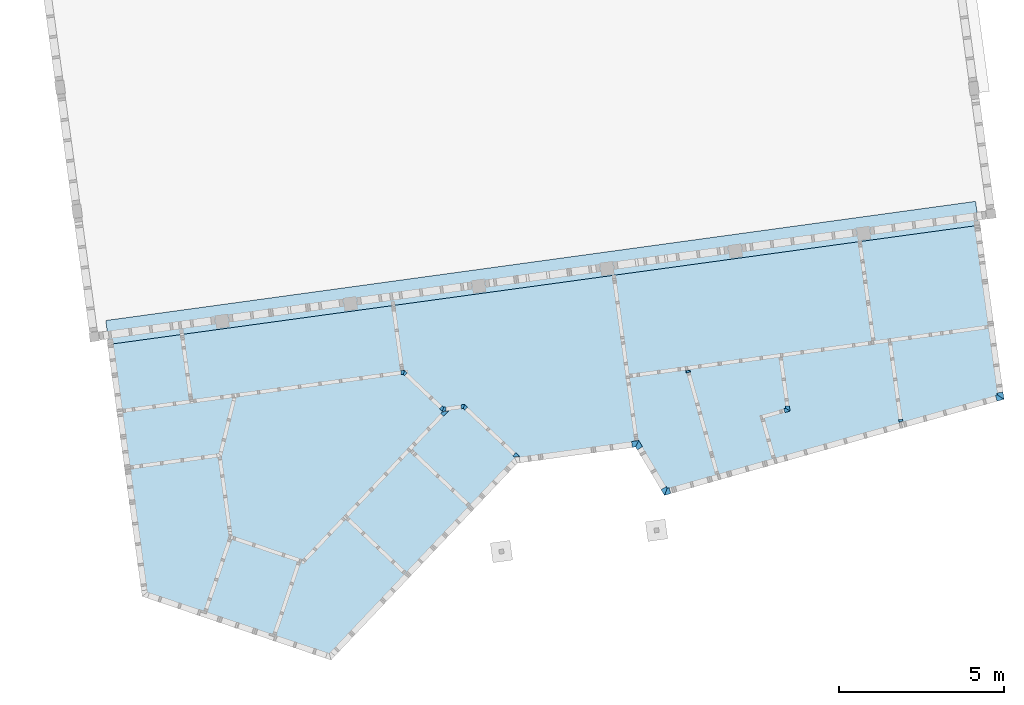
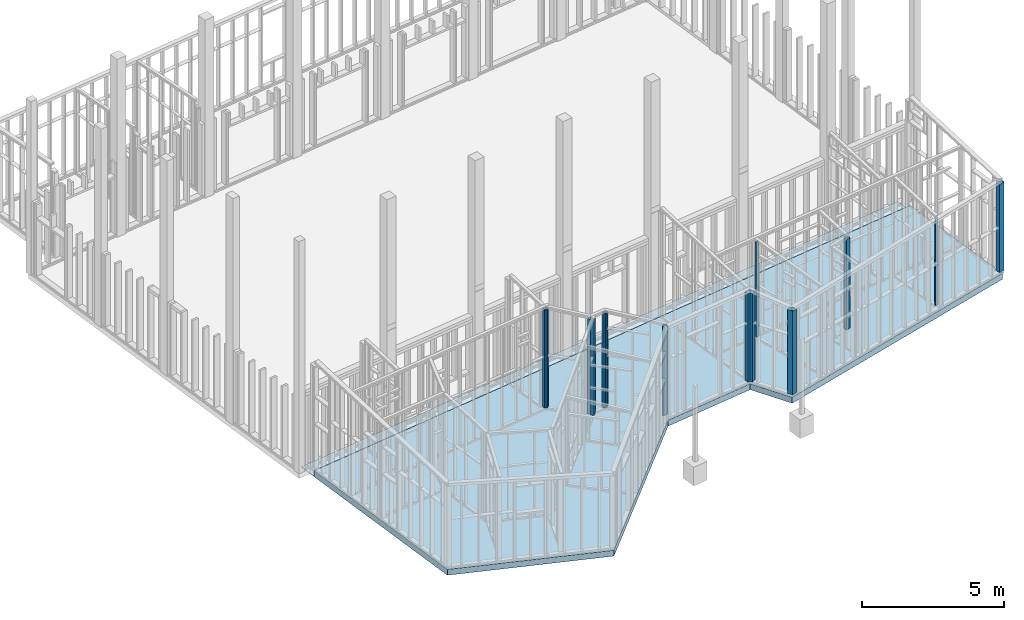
# One storey, part 23 of 24: 19 slabs.
"""IFC2X3 building model written with IfcOpenShell, lengths in metres."""

from ifc_helpers import new_model, entity, si_unit, converted_unit, derived_unit, money_unit, direction, frame, origin_with_axes, place, context, subcontext, project, spatial, polyline, outline, extrude, boolean, faceted_brep, material, layer, layer_set, layer_usage, type_object, element, save


model = new_model("IFC2X3")

# Units and contexts
model_context = context("Model", 3, precision=1e-05, world=origin_with_axes(), true_north=direction((0.0, 1.0)))
body_context = subcontext(model_context, "Body", "Model", "MODEL_VIEW")
ifc_project = project(units=[si_unit("LENGTHUNIT", "METRE"), si_unit("AREAUNIT", "SQUARE_METRE"), si_unit("VOLUMEUNIT", "CUBIC_METRE"), converted_unit("PLANEANGLEUNIT", "DEGREE", entity("IfcPlaneAngleMeasure", 0.0174532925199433), si_unit("PLANEANGLEUNIT", "RADIAN"), dimensions=[0, 0, 0, 0, 0, 0, 0]), money_unit("EUR"), converted_unit("TIMEUNIT", "Year", entity("IfcTimeMeasure", 31557600.0), si_unit("TIMEUNIT", "SECOND"), dimensions=[0, 0, 1, 0, 0, 0, 0]), si_unit("MASSUNIT", "GRAM", prefix="KILO"), si_unit("THERMODYNAMICTEMPERATUREUNIT", "DEGREE_CELSIUS"), si_unit("LUMINOUSINTENSITYUNIT", "LUMEN"), si_unit("ENERGYUNIT", "JOULE", prefix="MEGA"), derived_unit("THERMALCONDUCTANCEUNIT", [(si_unit("POWERUNIT", "WATT"), 1), (si_unit("LENGTHUNIT", "METRE"), -1), (si_unit("THERMODYNAMICTEMPERATUREUNIT", "KELVIN"), -1)]), derived_unit("SPECIFICHEATCAPACITYUNIT", [(si_unit("ENERGYUNIT", "JOULE"), 1), (si_unit("MASSUNIT", "GRAM", prefix="KILO"), -1), (si_unit("THERMODYNAMICTEMPERATUREUNIT", "KELVIN"), -1)]), derived_unit("MASSDENSITYUNIT", [(si_unit("MASSUNIT", "GRAM", prefix="KILO"), 1), (si_unit("VOLUMEUNIT", "CUBIC_METRE"), -1)])], contexts=[model_context])

# Site, building, storey
site_placement = place(None, origin_with_axes())
site = spatial("IfcSite", under=ifc_project, at=site_placement, Name="Gelände", CompositionType="ELEMENT")
building_placement = place(site_placement, origin_with_axes())
building = spatial("IfcBuilding", under=site, at=building_placement, Name="Gebäude", CompositionType="ELEMENT")
storey_placement = place(building_placement, origin_with_axes())
storey = spatial("IfcBuildingStorey", under=building, at=storey_placement, Name="EG", CompositionType="ELEMENT", Elevation=0.0)

# Slabs
ifc_material_1 = material(Name="Beton, Stahlbeton 25")
ifc_layer = layer(ifc_material_1, 0.25, ventilated="UNKNOWN")
ifc_layer_set = layer_set([ifc_layer], Name="Beton, Stahlbeton 25 0.25")
ifc_layer_usage = layer_usage(ifc_layer_set, "AXIS3", "NEGATIVE", 0.2500000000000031)
slab_type_1 = type_object("IfcSlabType", Name="Beton, Stahlbeton 25 250", PredefinedType="FLOOR")
slab_1_placement = place(storey_placement, frame((86.94210031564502, -150.5229918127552, -0.183000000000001), z_axis=(0.0, 0.0, 1.0), x_axis=(1.0, 0.0, 0.0)))
element("IfcSlab", 1, at=slab_1_placement, inside=storey, type_object=slab_type_1, material=ifc_layer_usage, Name="Decke-005", PredefinedType="FLOOR", context=body_context, shape_type="CSG", body=[
    boolean("DIFFERENCE", extrude(outline(polyline([(0.0, 0.0), (1.138037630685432, -8.308150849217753), (6.795379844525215, -10.21762928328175), (12.420906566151, -4.274484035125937), (16.03651223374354, -3.779223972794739), (16.90508876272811, -5.237460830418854), (27.10474242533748, -2.35044120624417), (26.2895100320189, 3.601096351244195), (0.0, 0.0)])), frame((0.0, 0.0, -0.2500000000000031), z_axis=(0.0, 0.0, 1.0), x_axis=(1.0, 0.0, 0.0)), (0.0, 0.0, 1.0), 0.2500000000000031), faceted_brep([(0.09907080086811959, -0.7232585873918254, 0.0), (26.38858085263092, 2.877837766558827, 0.0), (26.2895100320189, 3.601096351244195, 0.0), (0.0, 0.0, 0.0), (26.38858085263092, 2.877837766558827, -0.2350000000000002), (0.09907080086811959, -0.7232585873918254, -0.2350000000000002), (26.2895100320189, 3.601096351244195, -0.2350000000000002), (0.0, 0.0, -0.2350000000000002)], [[[0, 1, 2, 3]], [[4, 1, 0, 5]], [[4, 6, 2, 1]], [[6, 7, 3, 2]], [[5, 0, 3, 7]], [[6, 4, 5, 7]]])),
])
ifc_material_2 = material(Name="Holz, Bauholz")
slab_type_2 = type_object("IfcSlabType", Name="Holz, Bauholz", PredefinedType="FLOOR")
slab_2_placement = place(storey_placement, frame((-0.0160139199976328, 0.1169083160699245, 0.0), z_axis=(0.0, 0.0, 1.0), x_axis=(1.0, 0.0, 0.0)))
element("IfcSlab", 2, at=slab_2_placement, inside=storey, type_object=slab_type_2, material=ifc_material_2, Name="Decke-041", PredefinedType="FLOOR", context=body_context, shape_type="Brep", body=[
    faceted_brep([(110.9329398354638, -153.7151770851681, -0.04299999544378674), (110.9329398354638, -153.7151770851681, 3.706368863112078), (110.9225071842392, -153.6390138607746, 3.706368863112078), (110.9225071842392, -153.6390138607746, -0.04299999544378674), (111.0495396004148, -153.6821734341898, -0.04300000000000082), (111.0495396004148, -153.6821734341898, 3.706368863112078), (111.0413969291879, -153.6227285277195, 3.706368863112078), (111.0413969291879, -153.6227285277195, -0.04300000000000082)], [[[0, 1, 2, 3]], [[1, 0, 4, 5]], [[2, 1, 5, 6]], [[3, 2, 6, 7]], [[0, 3, 7, 4]], [[7, 6, 5, 4]]]),
])
slab_3_placement = place(storey_placement, frame((-0.01601392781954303, 0.1169083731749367, 0.0), z_axis=(0.0, 0.0, 1.0), x_axis=(1.0, 0.0, 0.0)))
element("IfcSlab", 3, at=slab_3_placement, inside=storey, type_object=slab_type_2, material=ifc_material_2, Name="Decke-043", PredefinedType="FLOOR", context=body_context, shape_type="Brep", body=[
    faceted_brep([(113.8994944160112, -152.8293312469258, -0.04299999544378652), (113.9076370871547, -152.8887761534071, -0.04299999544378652), (113.9076370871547, -152.8887761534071, 3.762329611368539), (113.8994944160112, -152.8293312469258, 3.762329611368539), (114.0778291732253, -152.8049032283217, -0.04299999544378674), (114.1072051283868, -153.0193599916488, -0.04299999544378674), (114.1072051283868, -153.0193599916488, 3.762329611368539), (114.0778291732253, -152.8049032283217, 3.762329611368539)], [[[0, 1, 2, 3]], [[1, 0, 4, 5]], [[1, 5, 6, 2]], [[3, 2, 6, 7]], [[0, 3, 7, 4]], [[4, 7, 6, 5]]]),
])
slab_4_placement = place(storey_placement, frame((-0.01601392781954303, 0.1169083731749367, 0.0), z_axis=(0.0, 0.0, 1.0), x_axis=(1.0, 0.0, 0.0)))
element("IfcSlab", 4, at=slab_4_placement, inside=storey, type_object=slab_type_2, material=ifc_material_2, Name="Decke-042", PredefinedType="FLOOR", context=body_context, shape_type="Brep", body=[
    faceted_brep([(113.8499029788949, -152.9051178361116, -0.04300000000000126), (113.8989262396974, -153.0783138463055, -0.04300000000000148), (113.8989262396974, -153.0783138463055, 3.741354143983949), (113.8499029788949, -152.9051178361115, 3.741354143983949), (113.9076348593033, -152.8887767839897, -0.04300000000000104), (114.1072032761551, -153.0193608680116, -0.04300000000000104), (114.1072032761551, -153.0193608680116, 3.745590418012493), (113.9076348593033, -152.8887767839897, 3.742528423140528)], [[[0, 1, 2, 3]], [[1, 0, 4, 5]], [[2, 1, 5, 6]], [[3, 2, 7]], [[0, 3, 7, 4]], [[5, 4, 7, 6]], [[7, 2, 6]]]),
])
slab_5_placement = place(storey_placement, frame((-0.0160139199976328, 0.1169083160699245, 0.0), z_axis=(0.0, 0.0, 1.0), x_axis=(1.0, 0.0, 0.0)))
element("IfcSlab", 5, at=slab_5_placement, inside=storey, type_object=slab_type_2, material=ifc_material_2, Name="Decke-039", PredefinedType="FLOOR", context=body_context, shape_type="Brep", body=[
    faceted_brep([(107.4514058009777, -153.3084026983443, -0.04299999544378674), (107.4840878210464, -153.4238664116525, -0.04299999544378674), (107.4840878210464, -153.4238664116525, 3.818423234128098), (107.4514058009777, -153.3084026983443, 3.818423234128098), (107.5091376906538, -153.2920616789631, -0.04299999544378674), (107.6421829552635, -153.3791175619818, -0.04299999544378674), (107.6421829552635, -153.3791175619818, 3.818423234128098), (107.5091376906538, -153.2920616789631, 3.818423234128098)], [[[0, 1, 2, 3]], [[1, 0, 4]], [[2, 1, 5, 6]], [[3, 2, 6, 7]], [[0, 3, 7, 4]], [[5, 1, 4]], [[4, 7, 6, 5]]]),
])
slab_6_placement = place(storey_placement, frame((-0.0160139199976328, 0.1169083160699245, 0.0), z_axis=(0.0, 0.0, 1.0), x_axis=(1.0, 0.0, 0.0)))
element("IfcSlab", 6, at=slab_6_placement, inside=storey, type_object=slab_type_2, material=ifc_material_2, Name="Decke-040", PredefinedType="FLOOR", context=body_context, shape_type="Brep", body=[
    faceted_brep([(107.5009935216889, -153.2326169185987, -0.04299999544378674), (107.5091361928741, -153.292061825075, -0.04299999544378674), (107.5091361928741, -153.292061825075, 3.83200834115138), (107.5009935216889, -153.2326169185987, 3.83200834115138), (107.6198832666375, -153.2163315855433, -0.04299999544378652), (107.6421814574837, -153.3791177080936, -0.04299999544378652), (107.6421814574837, -153.3791177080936, 3.832008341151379), (107.6198832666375, -153.2163315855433, 3.832008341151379)], [[[0, 1, 2, 3]], [[1, 0, 4, 5]], [[1, 5, 6, 2]], [[3, 2, 6, 7]], [[0, 3, 7, 4]], [[6, 5, 4, 7]]]),
])
slab_7_placement = place(storey_placement, frame((-0.01601391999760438, 0.1169083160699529, 0.0), z_axis=(0.0, 0.0, 1.0), x_axis=(1.0, 0.0, 0.0)))
element("IfcSlab", 7, at=slab_7_placement, inside=storey, type_object=slab_type_2, material=ifc_material_2, Name="Decke-038", PredefinedType="FLOOR", context=body_context, shape_type="Brep", body=[
    faceted_brep([(104.492535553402, -152.1606298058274, -0.04299999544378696), (104.5134723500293, -152.234598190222, -0.04299999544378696), (104.5134723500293, -152.234598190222, 4.034904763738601), (104.492535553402, -152.1606298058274, 4.034904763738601), (104.6125950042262, -152.1441842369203, -0.04299999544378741), (104.6289360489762, -152.2019161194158, -0.04299999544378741), (104.6289360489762, -152.2019161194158, 4.034904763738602), (104.6125950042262, -152.1441842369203, 4.034904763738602)], [[[0, 1, 2, 3]], [[1, 0, 4, 5]], [[2, 1, 5, 6]], [[3, 2, 6, 7]], [[0, 3, 7, 4]], [[4, 7, 6, 5]]]),
])
slab_8_placement = place(storey_placement, frame((-0.01601335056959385, 0.1169074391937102, 0.0), z_axis=(0.0, 0.0, 1.0), x_axis=(1.0, 0.0, 0.0)))
element("IfcSlab", 8, at=slab_8_placement, inside=storey, type_object=slab_type_2, material=ifc_material_2, Name="Decke-034", PredefinedType="FLOOR", context=body_context, shape_type="Brep", body=[
    faceted_brep([(103.7431350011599, -155.7539463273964, -0.04300000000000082), (103.8445510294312, -155.9242117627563, -0.04300000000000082), (103.8445510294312, -155.9242117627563, 3.555), (103.7431350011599, -155.7539463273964, 3.555), (103.8977807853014, -155.6618339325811, -0.04300000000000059), (103.9284849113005, -155.7133825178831, -0.04300000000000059), (103.9284849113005, -155.7133825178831, 3.555), (103.8977807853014, -155.6618339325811, 3.555)], [[[0, 1, 2, 3]], [[1, 0, 4, 5]], [[1, 5, 6, 2]], [[3, 2, 6, 7]], [[0, 3, 7, 4]], [[4, 7, 6, 5]]]),
])
slab_9_placement = place(storey_placement, frame((-0.01601335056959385, 0.1169074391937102, 0.0), z_axis=(0.0, 0.0, 1.0), x_axis=(1.0, 0.0, 0.0)))
element("IfcSlab", 9, at=slab_9_placement, inside=storey, type_object=slab_type_2, material=ifc_material_2, Name="Decke-035", PredefinedType="FLOOR", context=body_context, shape_type="Brep", body=[
    faceted_brep([(103.9284826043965, -155.7133833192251, -0.04300000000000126), (103.8445491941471, -155.9242113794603, -0.04300000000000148), (103.8445491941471, -155.9242113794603, 3.535), (103.9284826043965, -155.7133833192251, 3.535), (103.9862144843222, -155.697042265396, -0.04300000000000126), (104.0352373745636, -155.8702369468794, -0.04300000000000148), (104.0352373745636, -155.8702369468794, 3.535), (103.9862144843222, -155.697042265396, 3.535)], [[[0, 1, 2, 3]], [[1, 0, 4, 5]], [[2, 1, 5, 6]], [[3, 2, 6, 7]], [[0, 3, 7, 4]], [[4, 7, 6, 5]]]),
])
slab_10_placement = place(storey_placement, frame((-0.01601405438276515, 0.1169082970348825, 0.0), z_axis=(0.0, 0.0, 1.0), x_axis=(1.0, 0.0, 0.0)))
element("IfcSlab", 10, at=slab_10_placement, inside=storey, type_object=slab_type_2, material=ifc_material_2, Name="Decke-037", PredefinedType="FLOOR", context=body_context, shape_type="Brep", body=[
    faceted_brep([(102.9738144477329, -154.4623484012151, -0.04300000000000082), (103.0248490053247, -154.5480293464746, -0.04300000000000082), (103.0248490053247, -154.5480293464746, 3.745), (102.9738144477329, -154.4623484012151, 3.745), (103.0674689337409, -154.267838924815, -0.04300000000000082), (103.1794947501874, -154.4559169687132, -0.04300000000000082), (103.1794947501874, -154.4559169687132, 3.745), (103.0674689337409, -154.267838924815, 3.745)], [[[0, 1, 2, 3]], [[1, 0, 4, 5]], [[1, 5, 6, 2]], [[3, 2, 6, 7]], [[0, 3, 7, 4]], [[4, 7, 6, 5]]]),
])
slab_11_placement = place(storey_placement, frame((-0.01601405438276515, 0.1169082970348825, 0.0), z_axis=(0.0, 0.0, 1.0), x_axis=(1.0, 0.0, 0.0)))
element("IfcSlab", 11, at=slab_11_placement, inside=storey, type_object=slab_type_2, material=ifc_material_2, Name="Decke-036", PredefinedType="FLOOR", context=body_context, shape_type="Brep", body=[
    faceted_brep([(102.8505805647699, -154.2975480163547, -0.04300000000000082), (102.8750085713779, -154.4758826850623, -0.04300000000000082), (102.8750085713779, -154.4758826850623, 3.757160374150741), (102.8505805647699, -154.2975480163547, 3.757160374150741), (102.9738143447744, -154.4623484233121, -0.04300000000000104), (102.9738143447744, -154.4623484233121, 3.757160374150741), (103.0674688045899, -154.2678390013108, 3.757160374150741), (103.0674688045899, -154.2678390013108, -0.04300000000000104)], [[[0, 1, 2, 3]], [[1, 0, 4]], [[2, 1, 4, 5]], [[3, 2, 5]], [[0, 3, 6, 7]], [[4, 0, 7]], [[5, 4, 7, 6]], [[3, 5, 6]]]),
])
slab_12_placement = place(storey_placement, frame((-0.01601391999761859, 0.1169083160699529, 0.0), z_axis=(0.0, 0.0, 1.0), x_axis=(1.0, 0.0, 0.0)))
element("IfcSlab", 12, at=slab_12_placement, inside=storey, type_object=slab_type_2, material=ifc_material_2, Name="Decke-031", PredefinedType="FLOOR", context=body_context, shape_type="Brep", body=[
    faceted_brep([(97.76488127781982, -153.3019072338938, 4.013874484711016), (97.76488127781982, -153.3019072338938, -0.04300000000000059), (97.80845608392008, -153.3431532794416, -0.04300000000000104), (97.80845608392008, -153.3431532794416, 4.013874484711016), (97.80559294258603, -153.1752100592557, 4.013874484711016), (97.80559294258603, -153.1752100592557, -0.04300000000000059), (97.89094812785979, -153.2560037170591, -0.04300000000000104), (97.89094812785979, -153.2560037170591, 4.013874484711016)], [[[0, 1, 2, 3]], [[1, 0, 4, 5]], [[2, 1, 6]], [[3, 2, 6, 7]], [[4, 0, 3, 7]], [[5, 4, 7, 6]], [[1, 5, 6]]]),
])
slab_13_placement = place(storey_placement, frame((-0.01601391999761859, 0.1169083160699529, 0.0), z_axis=(0.0, 0.0, 1.0), x_axis=(1.0, 0.0, 0.0)))
element("IfcSlab", 13, at=slab_13_placement, inside=storey, type_object=slab_type_2, material=ifc_material_2, Name="Decke-030", PredefinedType="FLOOR", context=body_context, shape_type="Brep", body=[
    faceted_brep([(97.68915099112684, -153.1911602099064, -0.04300000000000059), (97.7054363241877, -153.310049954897, -0.04300000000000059), (97.7054363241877, -153.310049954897, 4.013874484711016), (97.68915099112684, -153.1911602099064, 4.013874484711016), (97.764881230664, -153.3019072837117, -0.04300000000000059), (97.80559289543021, -153.1752101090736, -0.04300000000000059), (97.764881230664, -153.3019072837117, 4.013874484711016), (97.80559289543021, -153.1752101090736, 4.013874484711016)], [[[0, 1, 2, 3]], [[4, 1, 0, 5]], [[1, 4, 6, 2]], [[3, 2, 6, 7]], [[0, 3, 7, 5]], [[6, 4, 5, 7]]]),
])
slab_14_placement = place(storey_placement, frame((-0.01601391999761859, 0.1169083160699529, 0.0), z_axis=(0.0, 0.0, 1.0), x_axis=(1.0, 0.0, 0.0)))
element("IfcSlab", 14, at=slab_14_placement, inside=storey, type_object=slab_type_2, material=ifc_material_2, Name="Decke-029", PredefinedType="FLOOR", context=body_context, shape_type="Brep", body=[
    faceted_brep([(97.08434965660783, -153.447450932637, 4.009085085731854), (97.08434965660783, -153.447450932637, -0.04300000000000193), (97.17149921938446, -153.5299429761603, -0.04300000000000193), (97.17149921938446, -153.5299429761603, 4.009085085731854), (97.1255957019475, -153.4038761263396, 4.009085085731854), (97.1255957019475, -153.4038761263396, -0.04300000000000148), (97.31463965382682, -153.3787208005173, -0.04300000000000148), (97.31463965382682, -153.3787208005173, 4.009085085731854)], [[[0, 1, 2, 3]], [[1, 0, 4, 5]], [[1, 5, 2]], [[3, 2, 6, 7]], [[4, 0, 3, 7]], [[5, 4, 7, 6]], [[2, 5, 6]]]),
])
slab_15_placement = place(storey_placement, frame((-0.01601392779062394, 0.1169083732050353, 0.0), z_axis=(0.0, 0.0, 1.0), x_axis=(1.0, 0.0, 0.0)))
element("IfcSlab", 15, at=slab_15_placement, inside=storey, type_object=slab_type_2, material=ifc_material_2, Name="Decke-027", PredefinedType="FLOOR", context=body_context, shape_type="Brep", body=[
    faceted_brep([(97.04601202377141, -153.3078913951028, 4.022882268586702), (97.04601202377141, -153.3078913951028, -0.04300000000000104), (97.13136720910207, -153.3886850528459, -0.04300000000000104), (97.13136720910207, -153.3886850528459, 4.022882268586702), (97.12850406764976, -153.2207418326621, 4.022882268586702), (97.12850406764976, -153.2207418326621, -0.04300000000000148), (97.17207887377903, -153.2619878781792, -0.04300000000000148), (97.17207887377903, -153.2619878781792, 4.022882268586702)], [[[0, 1, 2, 3]], [[1, 0, 4, 5]], [[1, 5, 6, 2]], [[3, 2, 6, 7]], [[4, 0, 3, 7]], [[5, 4, 7, 6]]]),
])
slab_16_placement = place(storey_placement, frame((-0.01601391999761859, 0.1169083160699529, 0.0), z_axis=(0.0, 0.0, 1.0), x_axis=(1.0, 0.0, 0.0)))
element("IfcSlab", 16, at=slab_16_placement, inside=storey, type_object=slab_type_2, material=ifc_material_2, Name="Decke-028", PredefinedType="FLOOR", context=body_context, shape_type="Brep", body=[
    faceted_brep([(97.17207887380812, -153.2619878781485, -0.04300000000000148), (97.13136720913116, -153.3886850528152, -0.04300000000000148), (97.13136720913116, -153.3886850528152, 4.013874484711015), (97.17207887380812, -153.2619878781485, 4.013874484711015), (97.24780911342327, -153.3727349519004, -0.04300000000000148), (97.24780911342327, -153.3727349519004, 4.013874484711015), (97.23152378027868, -153.2538452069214, 4.013874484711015), (97.23152378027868, -153.2538452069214, -0.04300000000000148)], [[[0, 1, 2, 3]], [[1, 0, 4]], [[2, 1, 4, 5]], [[3, 2, 5, 6]], [[0, 3, 6, 7]], [[0, 7, 4]], [[7, 6, 5, 4]]]),
])
slab_17_placement = place(storey_placement, frame((-0.01601391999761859, 0.1169083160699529, 0.0), z_axis=(0.0, 0.0, 1.0), x_axis=(1.0, 0.0, 0.0)))
element("IfcSlab", 17, at=slab_17_placement, inside=storey, type_object=slab_type_2, material=ifc_material_2, Name="Decke-025", PredefinedType="FLOOR", context=body_context, shape_type="Brep", body=[
    faceted_brep([(95.87369029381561, -152.1591579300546, -0.04300000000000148), (95.88997562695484, -152.2780476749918, -0.04300000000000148), (95.88997562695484, -152.2780476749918, 4.192197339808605), (95.87369029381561, -152.1591579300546, 4.192197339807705), (95.9494205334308, -152.2699050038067, -0.04300000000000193), (95.9494205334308, -152.2699050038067, 4.192829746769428), (95.99013219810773, -152.1432078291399, 4.192829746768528), (95.99013219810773, -152.1432078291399, -0.04300000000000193)], [[[0, 1, 2, 3]], [[1, 0, 4]], [[2, 1, 4, 5]], [[3, 2, 5]], [[0, 3, 6, 7]], [[4, 0, 7]], [[5, 4, 7, 6]], [[3, 5, 6]]]),
])
slab_18_placement = place(storey_placement, frame((-0.01601391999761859, 0.1169083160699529, 0.0), z_axis=(0.0, 0.0, 1.0), x_axis=(1.0, 0.0, 0.0)))
element("IfcSlab", 18, at=slab_18_placement, inside=storey, type_object=slab_type_2, material=ifc_material_2, Name="Decke-026", PredefinedType="FLOOR", context=body_context, shape_type="Brep", body=[
    faceted_brep([(95.94942051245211, -152.2699049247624, 4.194630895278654), (95.94942051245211, -152.2699049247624, -0.04300000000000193), (95.9929953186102, -152.3111509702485, -0.04300000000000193), (95.9929953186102, -152.3111509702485, 4.194630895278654), (95.99013217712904, -152.1432077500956, 4.194630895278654), (95.99013217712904, -152.1432077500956, -0.04300000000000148), (96.07548736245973, -152.2240014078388, -0.04300000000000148), (96.07548736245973, -152.2240014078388, 4.194630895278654)], [[[0, 1, 2, 3]], [[1, 0, 4, 5]], [[1, 5, 6, 2]], [[3, 2, 6, 7]], [[4, 0, 3, 7]], [[5, 4, 7, 6]]]),
])
ifc_material_3 = material(Name="Bauholz")
slab_type_3 = type_object("IfcSlabType", Name="Bauholz", PredefinedType="FLOOR")
slab_19_placement = place(storey_placement, frame((-0.01880848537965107, 0.1195535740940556, 0.0), z_axis=(0.0, 0.0, 1.0), x_axis=(1.0, 0.0, 0.0)))
element("IfcSlab", 19, at=slab_19_placement, inside=storey, type_object=slab_type_3, material=ifc_material_3, Name="Decke-044", PredefinedType="FLOOR", context=body_context, shape_type="Brep", body=[
    faceted_brep([(99.26913913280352, -154.7257733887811, -0.04300000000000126), (99.3127139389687, -154.7670194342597, -0.04300000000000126), (99.3127139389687, -154.7670194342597, 3.783475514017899), (99.26913913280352, -154.7257733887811, 3.783475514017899), (99.35163117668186, -154.6386238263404, -0.04300000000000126), (99.46520822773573, -154.7461309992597, -0.04300000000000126), (99.46520822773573, -154.7461309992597, 3.783475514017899), (99.35163117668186, -154.6386238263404, 3.783475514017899)], [[[0, 1, 2, 3]], [[1, 0, 4, 5]], [[2, 1, 5, 6]], [[3, 2, 6, 7]], [[0, 3, 7, 4]], [[4, 7, 6, 5]]]),
])

save(model, "model.ifc")
